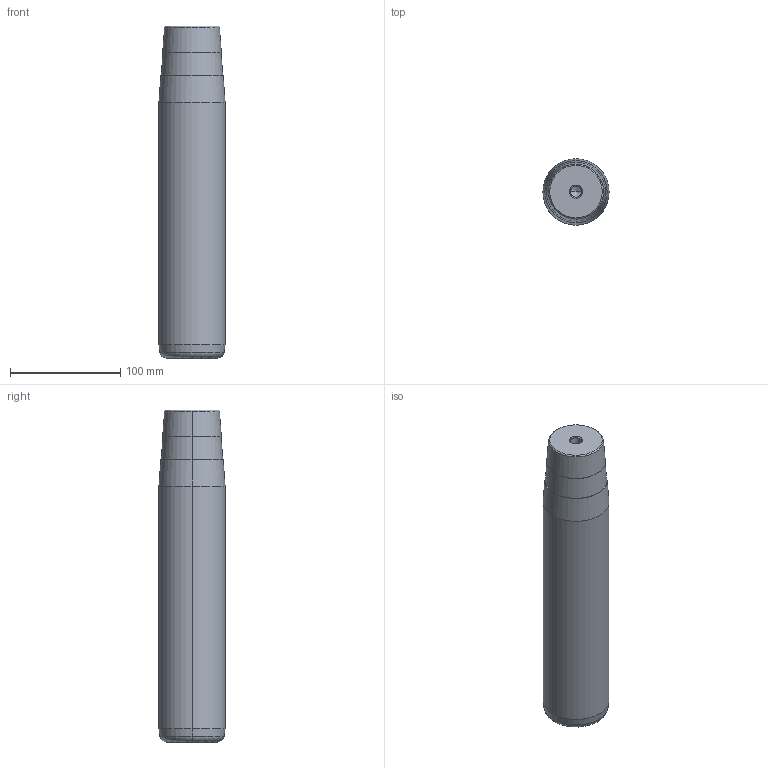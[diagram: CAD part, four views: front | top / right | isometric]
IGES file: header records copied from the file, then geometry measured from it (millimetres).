
Start section: START RECORD GO HERE.
Global section: file name: 722-60x250x301.igs; native system: DASSAULT SYSTEMES CATIA V5 R20 - www.3ds.com; preprocessor: CATIA Version 5 Release 20 ; author: Utente; organization: NB04-ASUS; date: 20210107.203018; units: millimetre
Bounding box: 60 x 60 x 301 mm (x, y, z)
Surface area: 61484.4 mm2 (no closed solid volume)
Topology: 0 solids, 0 shells, 32 faces, 128 edges, 124 vertices
Faces by surface type: revolution 30, plane 2
